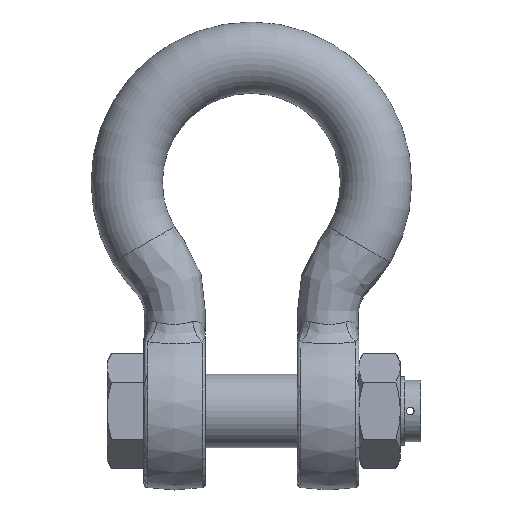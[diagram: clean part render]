
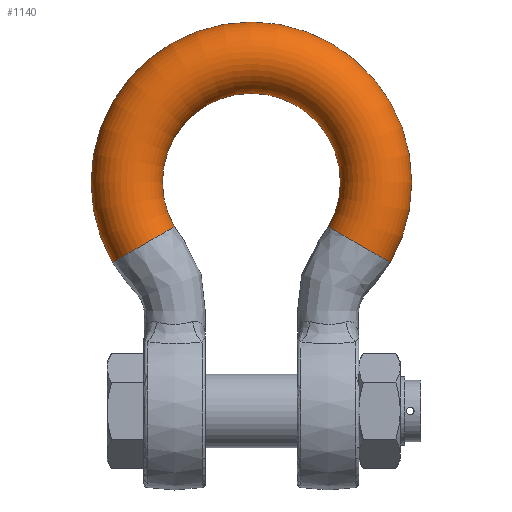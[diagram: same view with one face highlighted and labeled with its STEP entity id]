
A CAD part, top view. The second image highlights one B-rep face of the part: STEP entity #1140.
In plain terms, the highlighted toroidal (fillet/blend) face has major radius 162.5 mm and minor radius 46.5 mm.
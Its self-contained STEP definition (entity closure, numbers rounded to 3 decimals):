
#127=TOROIDAL_SURFACE('',#1291,162.5,46.5);
#220=CIRCLE('',#1292,46.5);
#221=CIRCLE('',#1293,46.5);
#222=CIRCLE('',#1294,116.);
#223=CIRCLE('',#1295,46.5);
#224=CIRCLE('',#1296,46.5);
#286=FACE_OUTER_BOUND('',#361,.T.);
#361=EDGE_LOOP('',(#904,#905,#906,#907,#908,#909));
#510=VERTEX_POINT('',#3824);
#511=VERTEX_POINT('',#3825);
#512=VERTEX_POINT('',#3828);
#513=VERTEX_POINT('',#3830);
#649=EDGE_CURVE('',#510,#511,#220,.T.);
#650=EDGE_CURVE('',#511,#510,#221,.T.);
#651=EDGE_CURVE('',#511,#512,#222,.T.);
#652=EDGE_CURVE('',#512,#513,#223,.T.);
#653=EDGE_CURVE('',#513,#512,#224,.T.);
#904=ORIENTED_EDGE('',*,*,#649,.F.);
#905=ORIENTED_EDGE('',*,*,#650,.F.);
#906=ORIENTED_EDGE('',*,*,#651,.T.);
#907=ORIENTED_EDGE('',*,*,#652,.T.);
#908=ORIENTED_EDGE('',*,*,#653,.T.);
#909=ORIENTED_EDGE('',*,*,#651,.F.);
#1140=ADVANCED_FACE('',(#286),#127,.T.);
#1291=AXIS2_PLACEMENT_3D('',#3823,#1478,#1479);
#1292=AXIS2_PLACEMENT_3D('',#3826,#1480,#1481);
#1293=AXIS2_PLACEMENT_3D('',#3827,#1482,#1483);
#1294=AXIS2_PLACEMENT_3D('',#3829,#1484,#1485);
#1295=AXIS2_PLACEMENT_3D('',#3831,#1486,#1487);
#1296=AXIS2_PLACEMENT_3D('',#3832,#1488,#1489);
#1478=DIRECTION('center_axis',(0.,0.,1.));
#1479=DIRECTION('ref_axis',(0.,1.,0.));
#1480=DIRECTION('center_axis',(0.5,-0.866,0.));
#1481=DIRECTION('ref_axis',(-0.866,-0.5,0.));
#1482=DIRECTION('center_axis',(0.5,-0.866,0.));
#1483=DIRECTION('ref_axis',(-0.866,-0.5,0.));
#1484=DIRECTION('center_axis',(0.,0.,-1.));
#1485=DIRECTION('ref_axis',(0.,1.,0.));
#1486=DIRECTION('center_axis',(0.5,0.866,0.));
#1487=DIRECTION('ref_axis',(0.866,-0.5,0.));
#1488=DIRECTION('center_axis',(0.5,0.866,0.));
#1489=DIRECTION('ref_axis',(0.866,-0.5,0.));
#3823=CARTESIAN_POINT('Origin',(0.,298.,0.));
#3824=CARTESIAN_POINT('',(-180.999,193.5,0.));
#3825=CARTESIAN_POINT('',(-100.459,240.,0.));
#3826=CARTESIAN_POINT('Origin',(-140.729,216.75,0.));
#3827=CARTESIAN_POINT('Origin',(-140.729,216.75,0.));
#3828=CARTESIAN_POINT('',(100.459,240.,0.));
#3829=CARTESIAN_POINT('Origin',(0.,298.,0.));
#3830=CARTESIAN_POINT('',(180.999,193.5,0.));
#3831=CARTESIAN_POINT('Origin',(140.729,216.75,0.));
#3832=CARTESIAN_POINT('Origin',(140.729,216.75,0.));
